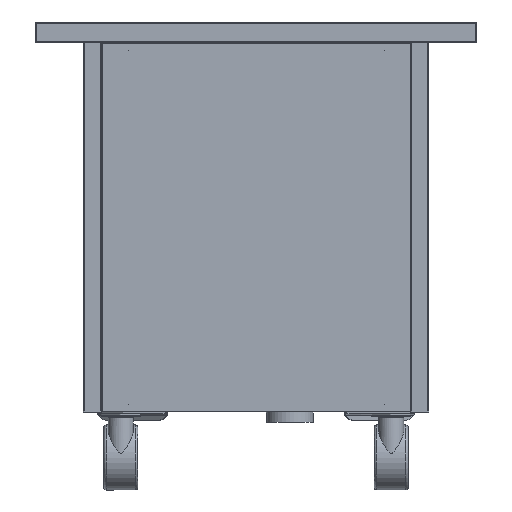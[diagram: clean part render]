
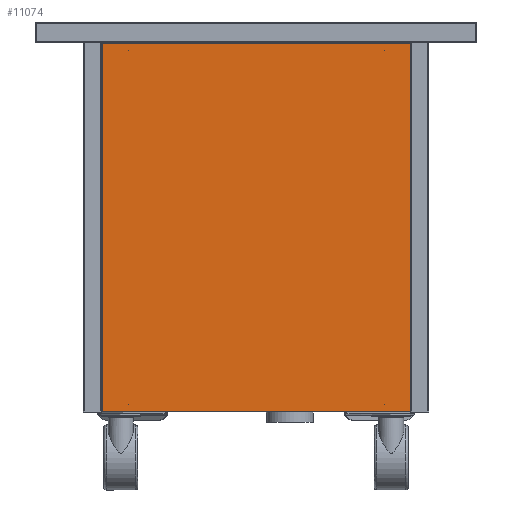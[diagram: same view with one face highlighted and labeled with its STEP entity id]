
A CAD part, left-side view. The second image highlights one B-rep face of the part: STEP entity #11074.
In plain terms, the highlighted planar face has unit normal (-1, 0, 0) as drawn and (0, 0, -1) by its records, which use the part's own axes.
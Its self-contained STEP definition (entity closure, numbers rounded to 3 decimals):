
#1190=PLANE($,#11917);
#1543=FACE_OUTER_BOUND($,#2291,.T.);
#2291=EDGE_LOOP($,(#8421,#8422,#8423,#8424));
#3286=LINE($,#17714,#4074);
#3290=LINE($,#17721,#4078);
#3293=LINE($,#17727,#4081);
#3295=LINE($,#17730,#4083);
#4074=VECTOR($,#13701,709.);
#4078=VECTOR($,#13707,593.);
#4081=VECTOR($,#13712,709.);
#4083=VECTOR($,#13716,593.);
#5486=VERTEX_POINT($,#17711);
#5487=VERTEX_POINT($,#17713);
#5489=VERTEX_POINT($,#17719);
#5491=VERTEX_POINT($,#17725);
#6623=EDGE_CURVE($,#5487,#5486,#3286,.T.);
#6627=EDGE_CURVE($,#5486,#5489,#3290,.T.);
#6630=EDGE_CURVE($,#5489,#5491,#3293,.T.);
#6632=EDGE_CURVE($,#5491,#5487,#3295,.T.);
#8421=ORIENTED_EDGE($,*,*,#6632,.T.);
#8422=ORIENTED_EDGE($,*,*,#6623,.T.);
#8423=ORIENTED_EDGE($,*,*,#6627,.T.);
#8424=ORIENTED_EDGE($,*,*,#6630,.T.);
#11074=ADVANCED_FACE($,(#1543),#1190,.F.);
#11917=AXIS2_PLACEMENT_3D($,#17732,#13719,#13720);
#13701=DIRECTION($,(0.,-1.,0.));
#13707=DIRECTION($,(-1.,0.,0.));
#13712=DIRECTION($,(0.,1.,0.));
#13716=DIRECTION($,(1.,0.,0.));
#13719=DIRECTION('center_axis',(0.,0.,1.));
#13720=DIRECTION('ref_axis',(1.,0.,0.));
#17711=CARTESIAN_POINT('',(296.5,-354.5,0.));
#17713=CARTESIAN_POINT('',(296.5,354.5,0.));
#17714=CARTESIAN_POINT($,(296.5,354.5,0.));
#17719=CARTESIAN_POINT('',(-296.5,-354.5,0.));
#17721=CARTESIAN_POINT($,(296.5,-354.5,0.));
#17725=CARTESIAN_POINT('',(-296.5,354.5,0.));
#17727=CARTESIAN_POINT($,(-296.5,-354.5,0.));
#17730=CARTESIAN_POINT($,(-296.5,354.5,0.));
#17732=CARTESIAN_POINT('Origin',(0.,0.,0.));
